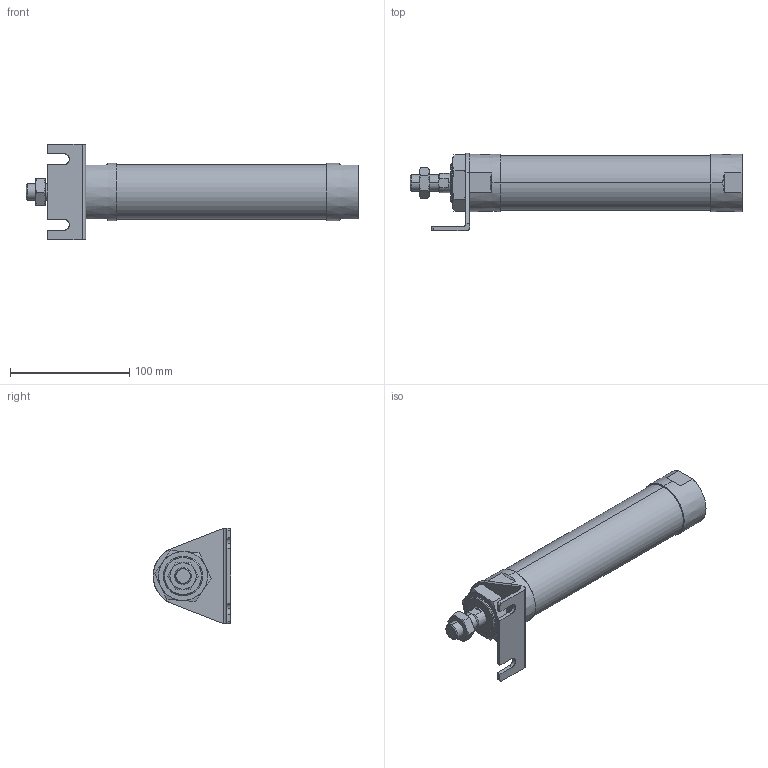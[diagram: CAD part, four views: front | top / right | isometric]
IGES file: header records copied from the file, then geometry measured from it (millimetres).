
Start section: SolidWorks IGES file using analytic representation for surfaces
Global section: file name: C:\Users\Toshiba\Desktop\JGND2-40-125-L.IGS; native system: SolidWorks 2014; preprocessor: SolidWorks 2014; author: Toshiba; date: 160804.111136; units: millimetre
Bounding box: 278 x 65 x 80 mm (x, y, z)
Surface area: 57994.2 mm2 (no closed solid volume)
Topology: 0 solids, 0 shells, 116 faces, 2112 edges, 2108 vertices
Faces by surface type: bspline 71, revolution 45
